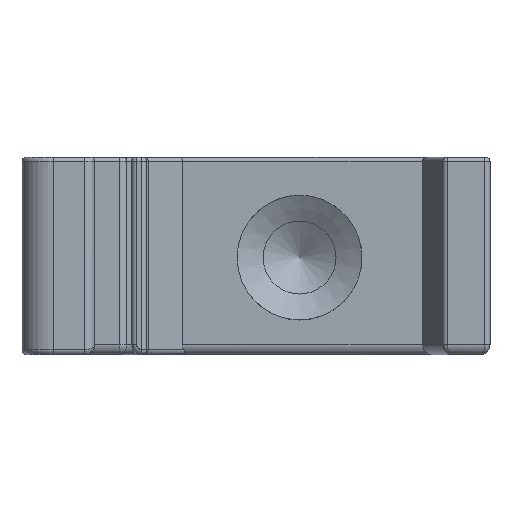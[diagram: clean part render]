
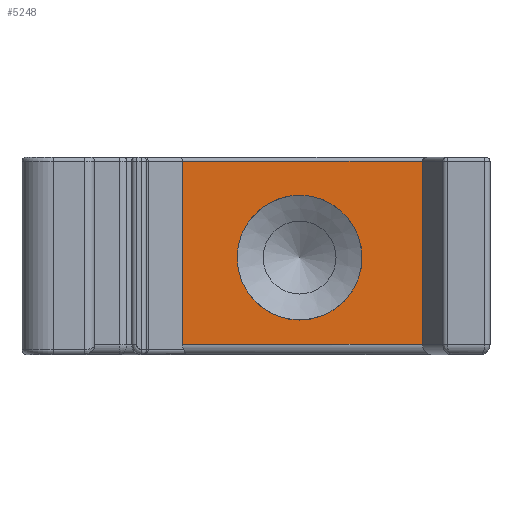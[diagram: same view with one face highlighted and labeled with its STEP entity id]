
A CAD part, front view. The second image highlights one B-rep face of the part: STEP entity #5248.
In plain terms, the highlighted planar face has unit normal (0, -1, 0).
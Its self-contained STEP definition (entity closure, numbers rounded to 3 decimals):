
#93=FACE_BOUND('',#929,.T.);
#195=PLANE('',#5940);
#587=FACE_OUTER_BOUND('',#928,.T.);
#928=EDGE_LOOP('',(#4766,#4767,#4768,#4769));
#929=EDGE_LOOP('',(#4770,#4771));
#1208=LINE('',#9168,#1568);
#1248=LINE('',#9496,#1608);
#1291=LINE('',#9799,#1651);
#1292=LINE('',#9801,#1652);
#1568=VECTOR('',#7157,10.);
#1608=VECTOR('',#7399,10.);
#1651=VECTOR('',#7642,10.);
#1652=VECTOR('',#7645,10.);
#2004=CIRCLE('',#5905,6.);
#2005=CIRCLE('',#5906,6.);
#2390=VERTEX_POINT('',#9141);
#2397=VERTEX_POINT('',#9167);
#2439=VERTEX_POINT('',#9490);
#2440=VERTEX_POINT('',#9494);
#2460=VERTEX_POINT('',#9699);
#2461=VERTEX_POINT('',#9700);
#3054=EDGE_CURVE('',#2390,#2397,#1208,.T.);
#3150=EDGE_CURVE('',#2440,#2439,#1248,.T.);
#3205=EDGE_CURVE('',#2460,#2461,#2004,.T.);
#3206=EDGE_CURVE('',#2461,#2460,#2005,.T.);
#3246=EDGE_CURVE('',#2390,#2439,#1291,.T.);
#3247=EDGE_CURVE('',#2397,#2440,#1292,.T.);
#4766=ORIENTED_EDGE('',*,*,#3054,.F.);
#4767=ORIENTED_EDGE('',*,*,#3246,.T.);
#4768=ORIENTED_EDGE('',*,*,#3150,.F.);
#4769=ORIENTED_EDGE('',*,*,#3247,.F.);
#4770=ORIENTED_EDGE('',*,*,#3205,.T.);
#4771=ORIENTED_EDGE('',*,*,#3206,.T.);
#5248=ADVANCED_FACE('',(#587,#93),#195,.T.);
#5905=AXIS2_PLACEMENT_3D('',#9701,#7546,#7547);
#5906=AXIS2_PLACEMENT_3D('',#9702,#7548,#7549);
#5940=AXIS2_PLACEMENT_3D('',#9800,#7643,#7644);
#7157=DIRECTION('',(-1.,0.,0.));
#7399=DIRECTION('',(1.,0.,0.));
#7546=DIRECTION('center_axis',(0.,1.,0.));
#7547=DIRECTION('ref_axis',(0.,0.,-1.));
#7548=DIRECTION('center_axis',(0.,1.,0.));
#7549=DIRECTION('ref_axis',(0.,0.,-1.));
#7642=DIRECTION('',(0.,0.,1.));
#7643=DIRECTION('center_axis',(0.,-1.,0.));
#7644=DIRECTION('ref_axis',(1.,0.,0.));
#7645=DIRECTION('',(0.,0.,1.));
#9141=CARTESIAN_POINT('',(39.838,7.5,1.));
#9167=CARTESIAN_POINT('',(15.423,7.5,1.));
#9168=CARTESIAN_POINT('',(18.962,7.5,1.));
#9490=CARTESIAN_POINT('',(39.838,7.5,18.6));
#9494=CARTESIAN_POINT('',(15.423,7.5,18.6));
#9496=CARTESIAN_POINT('',(18.962,7.5,18.6));
#9699=CARTESIAN_POINT('',(26.691,7.5,3.346));
#9700=CARTESIAN_POINT('',(26.691,7.5,15.346));
#9701=CARTESIAN_POINT('Origin',(26.691,7.5,9.346));
#9702=CARTESIAN_POINT('Origin',(26.691,7.5,9.346));
#9799=CARTESIAN_POINT('',(39.838,7.5,0.));
#9800=CARTESIAN_POINT('Origin',(15.423,7.5,0.));
#9801=CARTESIAN_POINT('',(15.423,7.5,0.));
